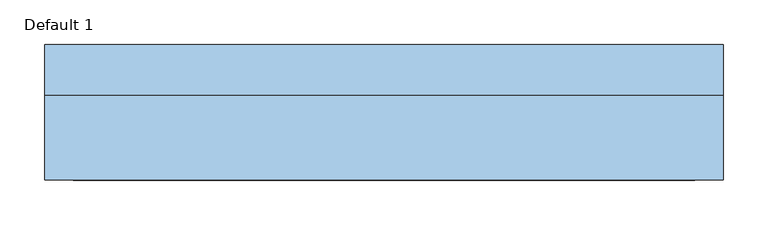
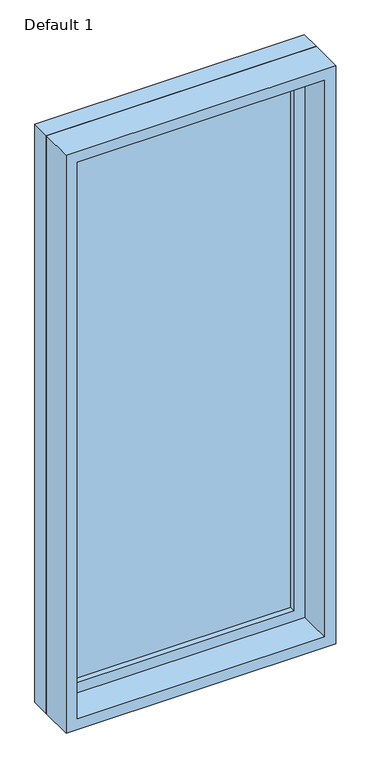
"""IFC4 building model written with IfcOpenShell, lengths in millimetres: window geometry, Planitar-Fixed : Default 1."""

from ifc_helpers import new_model, si_unit, frame, origin, place, context, project, spatial, polyline, outline, extrude, source, transform, mapped, element, save


def default_1_76f3aa2d(model_context):
    return source(origin(), model_context, "Body", "SweptSolid", [
        extrude(outline(polyline([(2622.6, -362.0), (933.4, -362.0), (933.4, 362.0), (2622.6, 362.0), (2622.6, -362.0)]), holes=[polyline([(2578.6, -318.0), (2578.6, 318.0), (977.4, 318.0), (977.4, -318.0), (2578.6, -318.0)])]), frame((0.0, 32.5, 0.0), z_axis=(0.0, 1.0, 0.0), x_axis=(0.0, 0.0, 1.0)), (0.0, 0.0, 1.0), 44.0),
        extrude(outline(polyline([(2641.6, -381.0), (914.4, -381.0), (914.4, 381.0), (2641.6, 381.0), (2641.6, -381.0)]), holes=[polyline([(2622.6, -362.0), (2622.6, 362.0), (933.4, 362.0), (933.4, -362.0), (2622.6, -362.0)])]), frame((0.0, 32.5, 0.0), z_axis=(0.0, 1.0, 0.0), x_axis=(0.0, 0.0, 1.0)), (0.0, 0.0, 1.0), 56.7),
        extrude(outline(polyline([(2641.6, -381.0), (914.4, -381.0), (914.4, 381.0), (2641.6, 381.0), (2641.6, -381.0)]), holes=[polyline([(2609.6, -349.0), (2609.6, 349.0), (946.4, 349.0), (946.4, -349.0), (2609.6, -349.0)])]), frame((0.0, -63.2, 0.0), z_axis=(0.0, 1.0, 0.0), x_axis=(0.0, 0.0, 1.0)), (0.0, 0.0, 1.0), 95.7),
        extrude(outline(polyline([(-318.0, 60.5), (318.0, 60.5), (318.0, 48.5), (-318.0, 48.5), (-318.0, 60.5)])), frame((0.0, 0.0, 977.4), z_axis=(0.0, 0.0, 1.0), x_axis=(1.0, 0.0, 0.0)), (0.0, 0.0, 1.0), 1601.2),
    ])


if __name__ == "__main__":
    model = new_model("IFC4")
    model_context = context("Model", 3, world=origin())
    ifc_project = project(units=[si_unit("LENGTHUNIT", "METRE", prefix="MILLI")], contexts=[model_context])
    site = spatial("IfcSite", under=ifc_project)
    building = spatial("IfcBuilding", under=site)
    placement = place(None, origin())
    default_1_shape = default_1_76f3aa2d(model_context)
    element("IfcWindow", 1, ObjectType="Planitar-Fixed : Default 1", at=placement, inside=building, context=model_context, shape_type="MappedRepresentation", body=[
        mapped(default_1_shape, transform((0.0, 0.0, 0.0), x_axis=(1.0, 0.0, 0.0), y_axis=(0.0, 1.0, 0.0), z_axis=(0.0, 0.0, 1.0))),
    ])
    save(model, "model.ifc")
